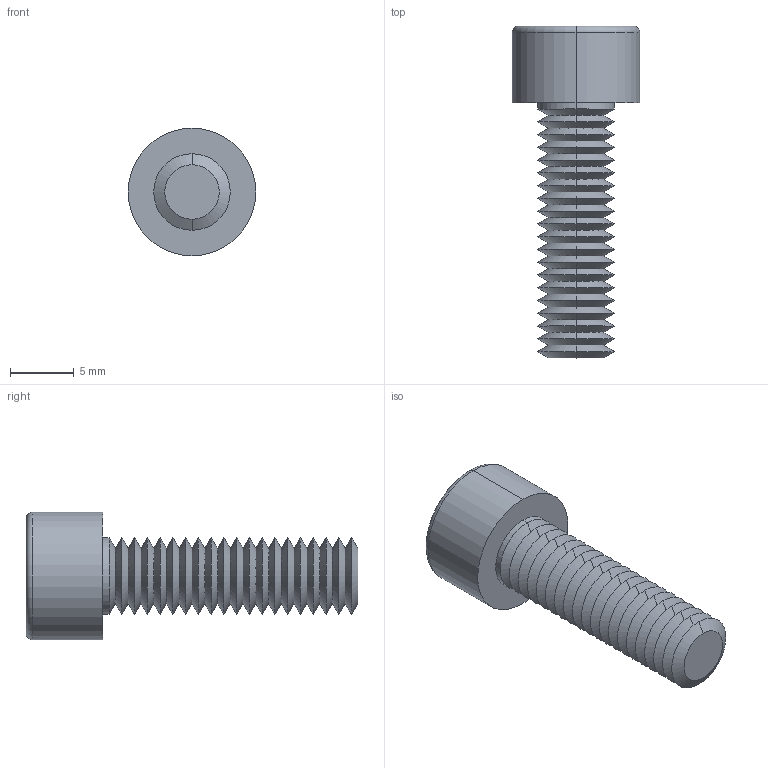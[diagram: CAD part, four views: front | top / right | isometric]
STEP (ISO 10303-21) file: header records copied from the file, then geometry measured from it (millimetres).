
FILE_DESCRIPTION (( 'STEP AP203' ), '1' );
FILE_NAME ('91N.060.0200.step', '2025-05-20T08:52:44', ( '' ), ( '' ), 'SwSTEP 2.0', 'SolidWorks 2019', '' );
FILE_SCHEMA (( 'CONFIG_CONTROL_DESIGN' ));
Length unit declared in the file: millimetre
Products named in the file (1): 91N.060.0200
Bounding box: 10 x 26 x 10 mm (x, y, z)
Volume: 773.3 mm3; surface area: 1051.8 mm2
Topology: 1 solids, 1 shells, 108 faces, 215 edges, 109 vertices
Faces by surface type: cone 87, plane 15, cylinder 4, torus 2
Entity records: 2778 total; most frequent: DIRECTION 527, CARTESIAN_POINT 458, ORIENTED_EDGE 426, EDGE_CURVE 213, AXIS2_PLACEMENT_3D 212, EDGE_LOOP 110, VERTEX_POINT 109, ADVANCED_FACE 108
